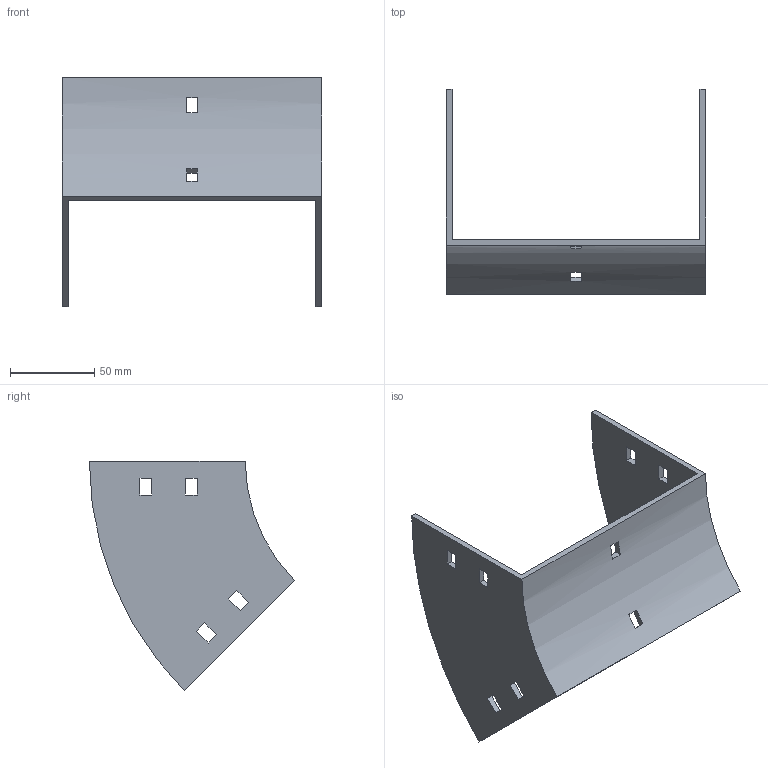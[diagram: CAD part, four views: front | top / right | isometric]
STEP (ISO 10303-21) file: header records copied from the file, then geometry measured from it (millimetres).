
FILE_DESCRIPTION (( 'STEP AP214' ), '1' );
FILE_NAME ('34B1I150.step', '2025-02-21T09:30:03', ( '' ), ( '' ), 'SwSTEP 2.0', 'SolidWorks 2023', '' );
FILE_SCHEMA (( 'AUTOMOTIVE_DESIGN' ));
Length unit declared in the file: millimetre
Products named in the file (1): 34B1I150
Bounding box: 154 x 121.79 x 136.12 mm (x, y, z)
Volume: 113115.5 mm3; surface area: 69182.2 mm2
Topology: 1 solids, 1 shells, 50 faces, 144 edges, 96 vertices
Faces by surface type: plane 46, cylinder 4
Entity records: 1687 total; most frequent: CARTESIAN_POINT 291, ORIENTED_EDGE 288, DIRECTION 262, EDGE_CURVE 144, VECTOR 128, LINE 128, VERTEX_POINT 96, EDGE_LOOP 70
